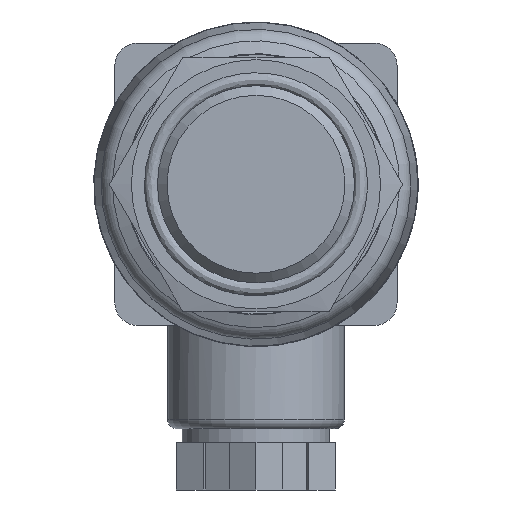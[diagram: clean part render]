
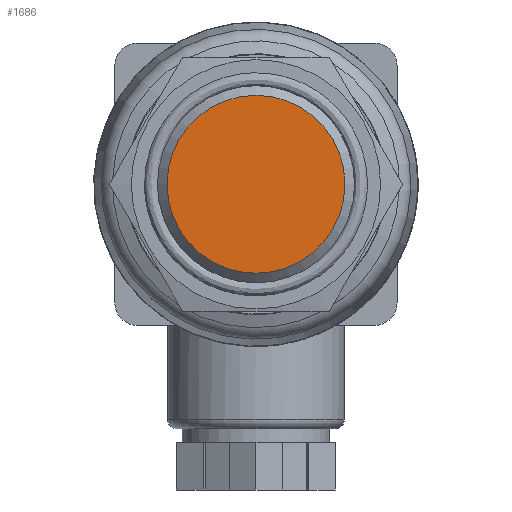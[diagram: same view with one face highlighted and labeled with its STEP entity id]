
A CAD part, left-side view. The second image highlights one B-rep face of the part: STEP entity #1686.
In plain terms, the highlighted planar face has unit normal (-1, 0, 0).
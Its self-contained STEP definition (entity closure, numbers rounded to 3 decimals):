
#386=PLANE('',#1842);
#508=FACE_OUTER_BOUND('',#630,.T.);
#630=EDGE_LOOP('',(#1442));
#696=CIRCLE('',#1841,9.458);
#827=VERTEX_POINT('',#2884);
#1035=EDGE_CURVE('',#827,#827,#696,.T.);
#1442=ORIENTED_EDGE('',*,*,#1035,.F.);
#1686=ADVANCED_FACE('',(#508),#386,.T.);
#1841=AXIS2_PLACEMENT_3D('',#2885,#2275,#2276);
#1842=AXIS2_PLACEMENT_3D('',#2886,#2277,#2278);
#2275=DIRECTION('center_axis',(1.,0.,0.));
#2276=DIRECTION('ref_axis',(0.,-1.,0.));
#2277=DIRECTION('center_axis',(-1.,0.,0.));
#2278=DIRECTION('ref_axis',(0.,0.,1.));
#2884=CARTESIAN_POINT('',(0.,9.458,0.));
#2885=CARTESIAN_POINT('Origin',(0.,0.,0.));
#2886=CARTESIAN_POINT('Origin',(0.,6.064,0.));
